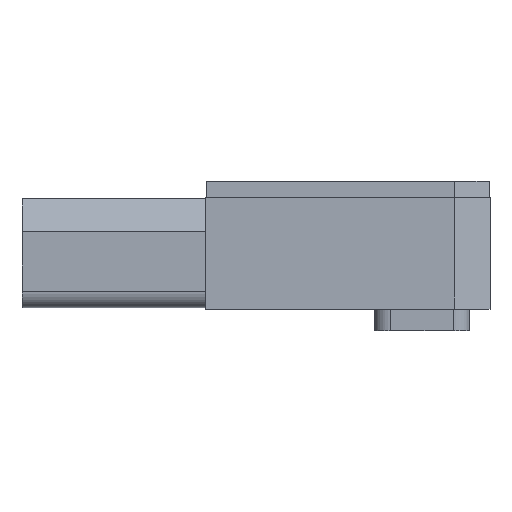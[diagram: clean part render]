
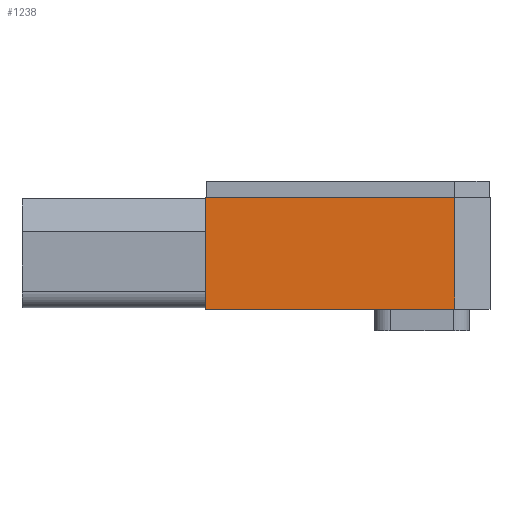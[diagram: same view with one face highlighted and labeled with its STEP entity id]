
A CAD part, front view. The second image highlights one B-rep face of the part: STEP entity #1238.
In plain terms, the highlighted planar face has unit normal (0, -1, 0).
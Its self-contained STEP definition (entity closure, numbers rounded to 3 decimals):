
#1238=ADVANCED_FACE('',(#3064),#3065,.T.);
#3064=FACE_OUTER_BOUND('',#5697,.T.);
#3065=PLANE('',#5698);
#5697=EDGE_LOOP('',(#9615,#9616,#9617,#9618));
#5698=AXIS2_PLACEMENT_3D('',#9619,#9620,#9621);
#9615=ORIENTED_EDGE('',*,*,#16398,.T.);
#9616=ORIENTED_EDGE('',*,*,#16180,.T.);
#9617=ORIENTED_EDGE('',*,*,#15647,.F.);
#9618=ORIENTED_EDGE('',*,*,#16399,.F.);
#9619=CARTESIAN_POINT('',(87.179,0.0,0.));
#9620=DIRECTION('',(0.,-1.0,0.));
#9621=DIRECTION('',(0.0,0.,-1.0));
#15647=EDGE_CURVE('',#18447,#18448,#18449,.T.);
#16180=EDGE_CURVE('',#19387,#18448,#19389,.T.);
#16398=EDGE_CURVE('',#19710,#19387,#19711,.T.);
#16399=EDGE_CURVE('',#19710,#18447,#19712,.T.);
#18447=VERTEX_POINT('',#22640);
#18448=VERTEX_POINT('',#22641);
#18449=LINE('',#22642,#22643);
#19387=VERTEX_POINT('',#24255);
#19389=LINE('',#24258,#24259);
#19710=VERTEX_POINT('',#24790);
#19711=LINE('',#24791,#24792);
#19712=LINE('',#24793,#24794);
#22640=CARTESIAN_POINT('',(0.0,0.0,41.0));
#22641=CARTESIAN_POINT('',(91.5,0.,41.0));
#22642=CARTESIAN_POINT('',(87.179,0.0,41.0));
#22643=VECTOR('',#29323,1.0);
#24255=CARTESIAN_POINT('',(91.5,0.0,0.));
#24258=CARTESIAN_POINT('',(91.5,0.0,0.));
#24259=VECTOR('',#29614,1.0);
#24790=CARTESIAN_POINT('',(0.0,0.0,0.0));
#24791=CARTESIAN_POINT('',(87.179,0.0,0.));
#24792=VECTOR('',#29745,1.0);
#24793=CARTESIAN_POINT('',(0.0,0.0,0.0));
#24794=VECTOR('',#29746,1.0);
#29323=DIRECTION('',(1.0,0.0,0.));
#29614=DIRECTION('',(0.,0.,1.0));
#29745=DIRECTION('',(1.0,0.0,0.));
#29746=DIRECTION('',(0.,0.,1.0));
